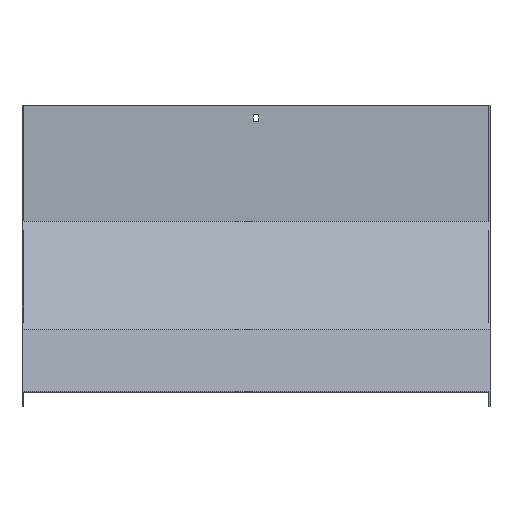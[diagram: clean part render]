
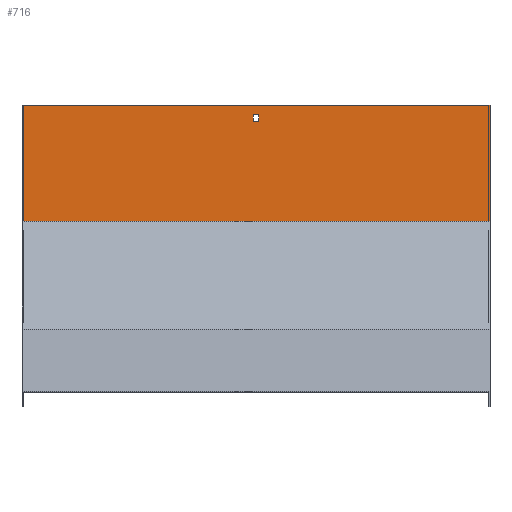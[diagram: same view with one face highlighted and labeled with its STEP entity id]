
A CAD part, top view. The second image highlights one B-rep face of the part: STEP entity #716.
In plain terms, the highlighted planar face has unit normal (0, 0, 1).
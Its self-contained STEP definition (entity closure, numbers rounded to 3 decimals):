
#15 = CARTESIAN_POINT ( 'NONE',  ( -301.5, 219.247, -368.947 ) ) ;
#16 = CARTESIAN_POINT ( 'NONE',  ( 3.25, 356.947, -368.947 ) ) ;
#18 = EDGE_CURVE ( 'NONE', #891, #454, #366, .T. ) ;
#26 = VECTOR ( 'NONE', #837, 1000. ) ;
#27 = LINE ( 'NONE', #860, #101 ) ;
#28 = LINE ( 'NONE', #329, #819 ) ;
#52 = ORIENTED_EDGE ( 'NONE', *, *, #122, .F. ) ;
#58 = DIRECTION ( 'NONE',  ( 0., 1., 0. ) ) ;
#63 = ORIENTED_EDGE ( 'NONE', *, *, #710, .F. ) ;
#75 = DIRECTION ( 'NONE',  ( -1., 0., 0. ) ) ;
#80 = ORIENTED_EDGE ( 'NONE', *, *, #18, .F. ) ;
#81 = CARTESIAN_POINT ( 'NONE',  ( 301.5, 219.247, -368.947 ) ) ;
#88 = VECTOR ( 'NONE', #58, 1000. ) ;
#95 = VERTEX_POINT ( 'NONE', #446 ) ;
#99 = LINE ( 'NONE', #15, #271 ) ;
#101 = VECTOR ( 'NONE', #480, 1000. ) ;
#113 = CARTESIAN_POINT ( 'NONE',  ( 301.5, 219.247, -368.947 ) ) ;
#117 = VECTOR ( 'NONE', #75, 1000. ) ;
#122 = EDGE_CURVE ( 'NONE', #349, #618, #99, .T. ) ;
#136 = CARTESIAN_POINT ( 'NONE',  ( -3.25, 356.947, -368.947 ) ) ;
#139 = DIRECTION ( 'NONE',  ( -1., 0., 0. ) ) ;
#147 = CARTESIAN_POINT ( 'NONE',  ( 301.5, 219.247, -368.947 ) ) ;
#149 = EDGE_LOOP ( 'NONE', ( #80, #421, #690, #63 ) ) ;
#153 = EDGE_CURVE ( 'NONE', #311, #349, #27, .T. ) ;
#192 = VERTEX_POINT ( 'NONE', #390 ) ;
#206 = CARTESIAN_POINT ( 'NONE',  ( 3.25, 347.947, -368.947 ) ) ;
#207 = CARTESIAN_POINT ( 'NONE',  ( 3.25, 347.947, -368.947 ) ) ;
#216 = CARTESIAN_POINT ( 'NONE',  ( 3.25, 356.947, -368.947 ) ) ;
#271 = VECTOR ( 'NONE', #401, 1000. ) ;
#293 = CARTESIAN_POINT ( 'NONE',  ( 3.25, 347.947, -368.947 ) ) ;
#311 = VERTEX_POINT ( 'NONE', #113 ) ;
#329 = CARTESIAN_POINT ( 'NONE',  ( -3.25, 347.947, -368.947 ) ) ;
#349 = VERTEX_POINT ( 'NONE', #470 ) ;
#366 = LINE ( 'NONE', #207, #88 ) ;
#369 = AXIS2_PLACEMENT_3D ( 'NONE', #147, #904, #760 ) ;
#390 = CARTESIAN_POINT ( 'NONE',  ( 301.5, 368.947, -368.947 ) ) ;
#400 = ORIENTED_EDGE ( 'NONE', *, *, #949, .T. ) ;
#401 = DIRECTION ( 'NONE',  ( 0., 1., 0. ) ) ;
#421 = ORIENTED_EDGE ( 'NONE', *, *, #936, .F. ) ;
#427 = LINE ( 'NONE', #216, #580 ) ;
#446 = CARTESIAN_POINT ( 'NONE',  ( -3.25, 347.947, -368.947 ) ) ;
#454 = VERTEX_POINT ( 'NONE', #16 ) ;
#470 = CARTESIAN_POINT ( 'NONE',  ( -301.5, 219.247, -368.947 ) ) ;
#477 = EDGE_CURVE ( 'NONE', #923, #95, #28, .T. ) ;
#479 = DIRECTION ( 'NONE',  ( 0., -1., 0. ) ) ;
#480 = DIRECTION ( 'NONE',  ( -1., 0., 0. ) ) ;
#580 = VECTOR ( 'NONE', #139, 1000. ) ;
#583 = EDGE_LOOP ( 'NONE', ( #52, #761, #902, #400 ) ) ;
#592 = CARTESIAN_POINT ( 'NONE',  ( -301.5, 368.947, -368.947 ) ) ;
#618 = VERTEX_POINT ( 'NONE', #592 ) ;
#666 = LINE ( 'NONE', #293, #714 ) ;
#683 = FACE_BOUND ( 'NONE', #149, .T. ) ;
#690 = ORIENTED_EDGE ( 'NONE', *, *, #477, .F. ) ;
#710 = EDGE_CURVE ( 'NONE', #454, #923, #427, .T. ) ;
#714 = VECTOR ( 'NONE', #831, 1000. ) ;
#716 = ADVANCED_FACE ( 'NONE', ( #683, #839 ), #972, .T. ) ;
#760 = DIRECTION ( 'NONE',  ( 1., 0., 0. ) ) ;
#761 = ORIENTED_EDGE ( 'NONE', *, *, #153, .F. ) ;
#762 = LINE ( 'NONE', #974, #117 ) ;
#819 = VECTOR ( 'NONE', #479, 1000. ) ;
#831 = DIRECTION ( 'NONE',  ( 1., 0., 0. ) ) ;
#837 = DIRECTION ( 'NONE',  ( 0., 1., 0. ) ) ;
#839 = FACE_OUTER_BOUND ( 'NONE', #583, .T. ) ;
#860 = CARTESIAN_POINT ( 'NONE',  ( 301.5, 219.247, -368.947 ) ) ;
#891 = VERTEX_POINT ( 'NONE', #206 ) ;
#902 = ORIENTED_EDGE ( 'NONE', *, *, #924, .T. ) ;
#904 = DIRECTION ( 'NONE',  ( 0., 0., 1. ) ) ;
#923 = VERTEX_POINT ( 'NONE', #136 ) ;
#924 = EDGE_CURVE ( 'NONE', #311, #192, #980, .T. ) ;
#936 = EDGE_CURVE ( 'NONE', #95, #891, #666, .T. ) ;
#949 = EDGE_CURVE ( 'NONE', #192, #618, #762, .T. ) ;
#972 = PLANE ( 'NONE',  #369 ) ;
#974 = CARTESIAN_POINT ( 'NONE',  ( 301.5, 368.947, -368.947 ) ) ;
#980 = LINE ( 'NONE', #81, #26 ) ;
